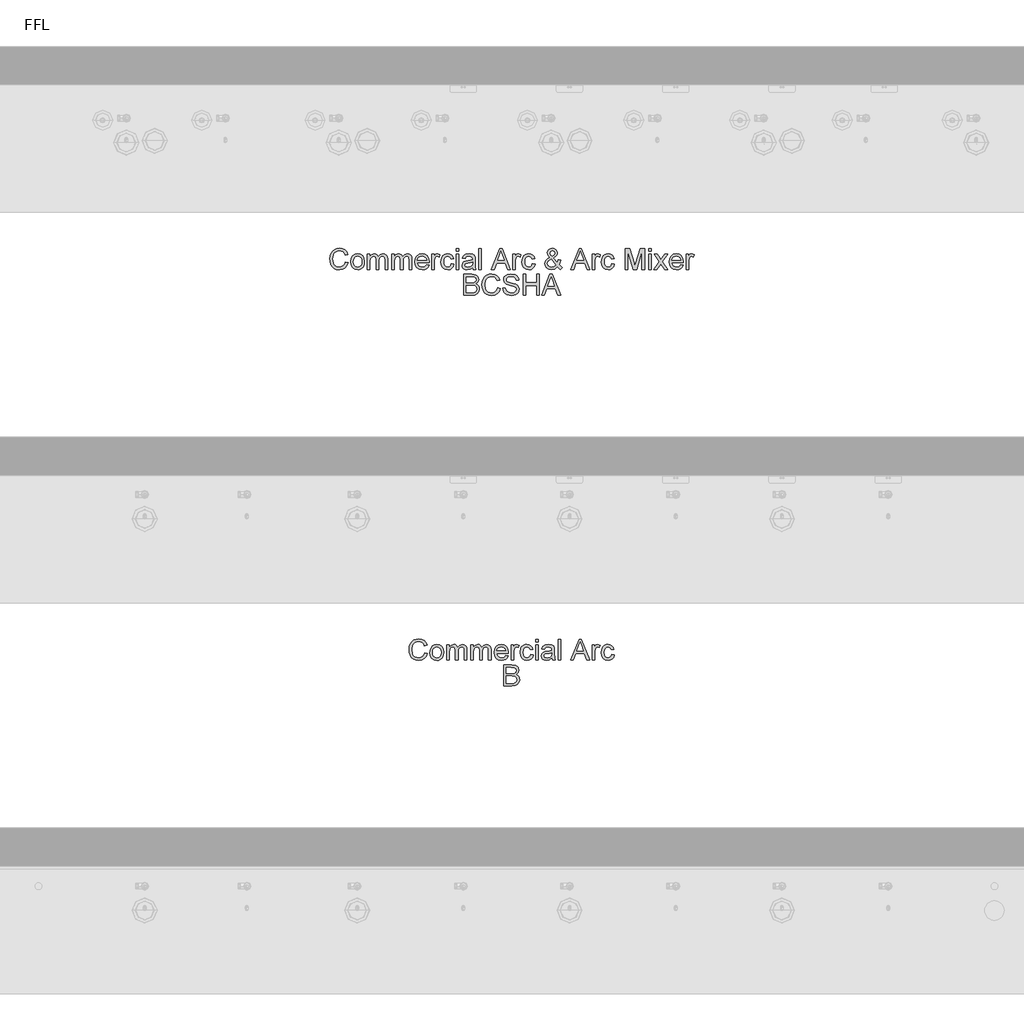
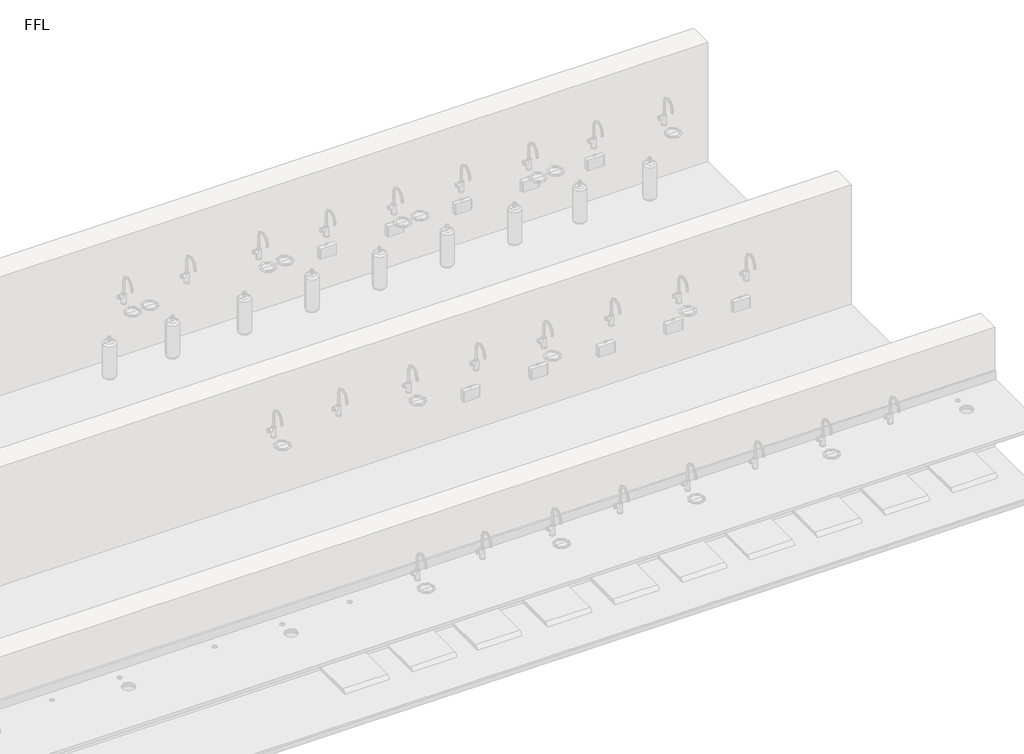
# One storey, part 10 of 10: 2 proxies.
"""IFC4 building model written with IfcOpenShell, lengths in millimetres."""

from ifc_helpers import new_model, si_unit, origin, origin_with_axes, place, context, project, spatial, polyline, outline, extrude, element, save

model = new_model("IFC4")

# Units and contexts
model_context = context("Model", 3, world=origin())
ifc_project = project(units=[si_unit("LENGTHUNIT", "METRE", prefix="MILLI")], contexts=[model_context])

# Site, building, storey
site = spatial("IfcSite", under=ifc_project)
building = spatial("IfcBuilding", under=site)
storey = spatial("IfcBuildingStorey", under=building, Name="FFL", Elevation=0.0)

# Proxies
placement = place(None, origin())
element("IfcBuildingElementProxy", 1, Name="150mm Arial", ObjectType="150mm Arial", at=placement, inside=storey, context=model_context, shape_type="SweptSolid", body=[
    extrude(outline(polyline([(6455.2647071, 6596.3018309), (6473.7262456, 6591.5422155), (6465.2076158, 6570.0292948), (6451.8392264, 6554.3126482), (6434.2791302, 6544.698766), (6413.1853802, 6541.4941386), (6391.7716182, 6543.9190184), (6374.7659091, 6551.1936578), (6361.7310533, 6563.065653), (6352.2298514, 6579.2826001), (6346.4290701, 6598.3481049), (6344.4954764, 6618.7657732), (6346.681474, 6640.3012299), (6353.2394667, 6658.8979847), (6363.8269066, 6673.9655929), (6378.1012456, 6684.9136097), (6395.0303321, 6691.5797756), (6413.5820148, 6693.8018309), (6433.8239018, 6690.9262299), (6450.5591783, 6682.299427), (6463.2650076, 6668.4532732), (6471.4185533, 6649.9196193), (6452.9570148, 6645.5205809), (6446.5567744, 6658.9836217), (6437.8127841, 6668.2188982), (6426.6168706, 6673.5599439), (6412.860861, 6675.3402924), (6397.0044908, 6673.3661338), (6383.9786494, 6667.4436578), (6374.0943345, 6658.1948597), (6367.6625437, 6646.2417347), (6362.9570148, 6618.8018309), (6368.5279283, 6586.9989463), (6375.6493225, 6575.1224439), (6385.8716783, 6566.6804367), (6398.1267865, 6561.6368669), (6411.3464379, 6559.955677), (6426.7565941, 6562.2453405), (6439.5976398, 6569.1143309), (6449.2926518, 6580.4905328), (6455.2647071, 6596.3018309)])), origin_with_axes(), (0.0, 0.0, 1.0), 5.0),
    extrude(outline(polyline([(6492.1877841, 6598.0326001), (6496.1811735, 6624.1834415), (6508.1613417, 6642.5638501), (6522.9630244, 6651.5692588), (6540.6853802, 6654.5710617), (6560.0799115, 6650.9157131), (6575.5711975, 6639.9496674), (6585.7259451, 6622.5383092), (6589.110861, 6599.5470232), (6587.6144667, 6580.8961818), (6583.1252841, 6566.6984655), (6575.774022, 6556.0659535), (6565.6913898, 6548.1107251), (6553.7157288, 6543.1482852), (6540.6853802, 6541.4941386), (6521.056474, 6545.1359655), (6505.5832167, 6556.0614463), (6495.5366422, 6573.8378886), (6492.1877841, 6598.0326001)]), holes=[polyline([(6510.6493225, 6598.0686578), (6512.7857408, 6581.3604246), (6519.1949956, 6569.456879), (6528.8404283, 6562.3309775), (6540.6853802, 6559.955677), (6552.4762456, 6562.3444992), (6562.1036494, 6569.5109655), (6568.5129042, 6581.5722636), (6570.6493225, 6598.6455809), (6568.4993826, 6614.8670352), (6562.0495629, 6626.6083213), (6552.4086374, 6633.7342227), (6540.6853802, 6636.1095232), (6528.8404283, 6633.7432371), (6519.1949956, 6626.644379), (6512.7857408, 6614.7678766), (6510.6493225, 6598.0686578)])]), origin_with_axes(), (0.0, 0.0, 1.0), 5.0),
    extrude(outline(polyline([(6609.8800917, 6543.8018309), (6609.8800917, 6652.2633693), (6628.3416302, 6652.2633693), (6628.3416302, 6634.4148117), (6641.0339379, 6649.0362059), (6659.0988417, 6654.5710617), (6669.3662696, 6653.1603044), (6677.5964379, 6648.9280328), (6687.7647071, 6633.1167347), (6702.1697552, 6649.2074799), (6720.360861, 6654.5710617), (6734.2385653, 6652.3399919), (6744.501486, 6645.6467828), (6750.8431326, 6634.3111458), (6752.9570148, 6618.1527924), (6752.9570148, 6543.8018309), (6734.4954764, 6543.8018309), (6734.4954764, 6610.2201001), (6732.782736, 6625.6347636), (6726.5808129, 6633.2249078), (6716.0339379, 6636.1095232), (6706.0324355, 6634.2615665), (6697.8788898, 6628.7176963), (6692.4567143, 6619.0993068), (6690.6493225, 6605.0277924), (6690.6493225, 6543.8018309), (6672.1877841, 6543.8018309), (6672.1877841, 6612.2753886), (6667.9149475, 6630.160004), (6662.2764259, 6634.6221434), (6653.9065341, 6636.1095232), (6640.2406687, 6632.143177), (6631.1541302, 6620.5326001), (6628.3416302, 6598.5013501), (6628.3416302, 6543.8018309), (6609.8800917, 6543.8018309)])), origin_with_axes(), (0.0, 0.0, 1.0), 5.0),
    extrude(outline(polyline([(6780.6493225, 6543.8018309), (6780.6493225, 6652.2633693), (6799.110861, 6652.2633693), (6799.110861, 6634.4148117), (6811.8031687, 6649.0362059), (6829.8680725, 6654.5710617), (6840.1355004, 6653.1603044), (6848.3656687, 6648.9280328), (6858.5339379, 6633.1167347), (6872.938986, 6649.2074799), (6891.1300917, 6654.5710617), (6905.0077961, 6652.3399919), (6915.2707167, 6645.6467828), (6921.6123634, 6634.3111458), (6923.7262456, 6618.1527924), (6923.7262456, 6543.8018309), (6905.2647071, 6543.8018309), (6905.2647071, 6610.2201001), (6903.5519667, 6625.6347636), (6897.3500437, 6633.2249078), (6886.8031687, 6636.1095232), (6876.8016663, 6634.2615665), (6868.6481206, 6628.7176963), (6863.2259451, 6619.0993068), (6861.4185533, 6605.0277924), (6861.4185533, 6543.8018309), (6842.9570148, 6543.8018309), (6842.9570148, 6612.2753886), (6838.6841783, 6630.160004), (6833.0456566, 6634.6221434), (6824.6757648, 6636.1095232), (6811.0098994, 6632.143177), (6801.923361, 6620.5326001), (6799.110861, 6598.5013501), (6799.110861, 6543.8018309), (6780.6493225, 6543.8018309)])), origin_with_axes(), (0.0, 0.0, 1.0), 5.0),
    extrude(outline(polyline([(7027.3560533, 6576.1095232), (7045.4570148, 6573.8018309), (7038.9350797, 6560.1630088), (7028.5279283, 6549.9676963), (7014.4699355, 6543.612528), (6996.9954764, 6541.4941386), (6975.3338177, 6545.1494871), (6958.6661494, 6556.1155328), (6948.0381446, 6573.6801362), (6944.4954764, 6597.1311578), (6948.0742023, 6621.3709415), (6958.8103802, 6639.4989463), (6975.2526879, 6650.8030328), (6995.9498033, 6654.5710617), (7016.0023874, 6650.8120472), (7032.0255244, 6639.535004), (7042.5318345, 6621.4430568), (7046.0339379, 6597.2393309), (7045.9257648, 6592.2633693), (6962.9570148, 6592.2633693), (6966.1526278, 6578.4442588), (6973.5760052, 6568.285004), (6984.289647, 6562.0380088), (6997.3560533, 6559.955677), (7015.4570148, 6563.8138501), (7027.3560533, 6576.1095232)]), holes=[polyline([(6962.9570148, 6610.7249078), (7027.5723994, 6610.7249078), (7025.0754042, 6620.4785136), (7020.1805725, 6627.455677), (7009.4173514, 6633.9460617), (6995.8776879, 6636.1095232), (6983.4332768, 6634.3832612), (6973.1433129, 6629.2044751), (6965.9903682, 6621.1320592), (6962.9570148, 6610.7249078)])]), origin_with_axes(), (0.0, 0.0, 1.0), 5.0),
    extrude(outline(polyline([(7064.4954764, 6543.8018309), (7064.4954764, 6652.2633693), (7080.6493225, 6652.2633693), (7080.6493225, 6636.2176963), (7092.1156687, 6651.0013501), (7103.6541302, 6654.5710617), (7122.1877841, 6648.8739463), (7116.0219187, 6632.3234655), (7103.0411494, 6636.1095232), (7092.6024475, 6632.4676963), (7085.9498033, 6622.3715424), (7082.9570148, 6600.8090424), (7082.9570148, 6543.8018309), (7064.4954764, 6543.8018309)])), origin_with_axes(), (0.0, 0.0, 1.0), 5.0),
    extrude(outline(polyline([(7202.9570148, 6583.0326001), (7221.4185533, 6580.7249078), (7216.2713177, 6564.3051362), (7206.5988417, 6551.8967828), (7193.3115821, 6544.0947996), (7177.3199956, 6541.4941386), (7157.6820749, 6545.1224439), (7142.3260052, 6556.0073597), (7132.414647, 6573.6711217), (7129.110861, 6597.6359655), (7134.7538898, 6628.3030328), (7141.8752841, 6639.8009294), (7151.9534091, 6648.0085617), (7164.0101999, 6652.9304367), (7177.0675917, 6654.5710617), (7192.6670509, 6652.3174559), (7205.1385052, 6645.5566386), (7214.0853201, 6634.6491867), (7219.110861, 6619.955677), (7200.6493225, 6617.6479847), (7192.0856206, 6631.4761097), (7177.2118225, 6636.1095232), (7165.2812336, 6633.8288742), (7155.8115821, 6626.986927), (7149.6321951, 6615.2140905), (7147.5723994, 6598.1407732), (7149.587123, 6580.8375881), (7155.6312937, 6569.0241867), (7164.9296711, 6562.2228044), (7176.7070148, 6559.955677), (7186.2668105, 6561.3709415), (7194.1048514, 6565.6167347), (7199.806474, 6572.8012299), (7202.9570148, 6583.0326001)])), origin_with_axes(), (0.0, 0.0, 1.0), 5.0),
    extrude(outline(polyline([(7237.5723994, 6673.0326001), (7237.5723994, 6691.4941386), (7256.0339379, 6691.4941386), (7256.0339379, 6673.0326001), (7237.5723994, 6673.0326001)])), origin_with_axes(), (0.0, 0.0, 1.0), 5.0),
    extrude(outline(polyline([(7237.5723994, 6543.8018309), (7237.5723994, 6652.2633693), (7256.0339379, 6652.2633693), (7256.0339379, 6543.8018309), (7237.5723994, 6543.8018309)])), origin_with_axes(), (0.0, 0.0, 1.0), 5.0),
    extrude(outline(polyline([(7352.9570148, 6557.6479847), (7335.0543706, 6545.1359655), (7315.2767264, 6541.4941386), (7299.8485413, 6543.6846434), (7288.4678321, 6550.2561578), (7281.4501038, 6560.2351242), (7279.110861, 6572.6479847), (7282.6445148, 6587.2513501), (7291.9293706, 6597.8523117), (7304.8560533, 6603.910004), (7320.829611, 6606.6864463), (7352.8488417, 6613.0326001), (7352.9570148, 6617.143177), (7351.6859812, 6625.3823597), (7347.8728802, 6630.7729847), (7339.345236, 6634.7753886), (7327.4642264, 6636.1095232), (7308.7863417, 6632.5578405), (7299.8800917, 6619.955677), (7281.4185533, 6622.2633693), (7289.4053321, 6640.2922155), (7305.4870629, 6650.8571193), (7329.8440341, 6654.5710617), (7352.2178321, 6651.2898117), (7364.8560533, 6643.050629), (7370.517111, 6630.5205809), (7371.4185533, 6614.3667347), (7371.4185533, 6591.3979847), (7372.3560533, 6559.3246674), (7376.0339379, 6543.8018309), (7357.5723994, 6543.8018309), (7352.9570148, 6557.6479847)]), holes=[polyline([(7352.9570148, 6594.5710617), (7323.173361, 6588.910004), (7307.2899475, 6585.9172155), (7300.0964379, 6581.049427), (7297.5723994, 6573.9460617), (7303.0711975, 6563.9580809), (7319.2070148, 6559.955677), (7337.8848994, 6564.3727443), (7349.9281687, 6575.0638501), (7352.8488417, 6589.3426963), (7352.9570148, 6594.5710617)])]), origin_with_axes(), (0.0, 0.0, 1.0), 5.0),
    extrude(outline(polyline([(7396.8031687, 6543.8018309), (7396.8031687, 6691.4941386), (7415.2647071, 6691.4941386), (7415.2647071, 6543.8018309), (7396.8031687, 6543.8018309)])), origin_with_axes(), (0.0, 0.0, 1.0), 5.0),
    extrude(outline(polyline([(7485.7574956, 6543.8018309), (7544.7118225, 6691.4941386), (7560.4329764, 6691.4941386), (7619.3873033, 6543.8018309), (7599.8800917, 6543.8018309), (7582.9690341, 6589.955677), (7522.1397071, 6589.955677), (7505.2647071, 6543.8018309), (7485.7574956, 6543.8018309)]), holes=[polyline([(7528.9185533, 6608.4172155), (7576.2262456, 6608.4172155), (7562.9209571, 6644.7273117), (7552.5723994, 6673.0326001), (7543.3776879, 6647.9003886), (7528.9185533, 6608.4172155)])]), origin_with_axes(), (0.0, 0.0, 1.0), 5.0),
    extrude(outline(polyline([(7636.8031687, 6543.8018309), (7636.8031687, 6652.2633693), (7652.9570148, 6652.2633693), (7652.9570148, 6636.2176963), (7664.423361, 6651.0013501), (7675.9618225, 6654.5710617), (7694.4954764, 6648.8739463), (7688.329611, 6632.3234655), (7675.3488417, 6636.1095232), (7664.9101398, 6632.4676963), (7658.2574956, 6622.3715424), (7655.2647071, 6600.8090424), (7655.2647071, 6543.8018309), (7636.8031687, 6543.8018309)])), origin_with_axes(), (0.0, 0.0, 1.0), 5.0),
    extrude(outline(polyline([(7775.2647071, 6583.0326001), (7793.7262456, 6580.7249078), (7788.57901, 6564.3051362), (7778.9065341, 6551.8967828), (7765.6192744, 6544.0947996), (7749.6276879, 6541.4941386), (7729.9897672, 6545.1224439), (7714.6336975, 6556.0073597), (7704.7223393, 6573.6711217), (7701.4185533, 6597.6359655), (7707.0615821, 6628.3030328), (7714.1829764, 6639.8009294), (7724.2611014, 6648.0085617), (7736.3178922, 6652.9304367), (7749.3752841, 6654.5710617), (7764.9747432, 6652.3174559), (7777.4461975, 6645.5566386), (7786.3930124, 6634.6491867), (7791.4185533, 6619.955677), (7772.9570148, 6617.6479847), (7764.3933129, 6631.4761097), (7749.5195148, 6636.1095232), (7737.5889259, 6633.8288742), (7728.1192744, 6626.986927), (7721.9398874, 6615.2140905), (7719.8800917, 6598.1407732), (7721.8948153, 6580.8375881), (7727.938986, 6569.0241867), (7737.2373634, 6562.2228044), (7749.0147071, 6559.955677), (7758.5745028, 6561.3709415), (7766.4125437, 6565.6167347), (7772.1141663, 6572.8012299), (7775.2647071, 6583.0326001)])), origin_with_axes(), (0.0, 0.0, 1.0), 5.0),
    extrude(outline(polyline([(7952.2719187, 6562.0470232), (7932.6925917, 6546.6323597), (7909.7959571, 6541.4941386), (7889.423361, 6545.2982251), (7873.7382648, 6556.7104847), (7865.6523273, 6569.8444992), (7862.9570148, 6584.4388501), (7865.1249836, 6597.3745472), (7871.6288898, 6608.9941386), (7882.4416903, 6619.2886097), (7897.5363417, 6628.2489463), (7884.6457167, 6646.9268309), (7881.4185533, 6660.7729847), (7883.9606206, 6673.2399318), (7891.5868225, 6683.9580809), (7903.0621831, 6691.3408934), (7917.1517264, 6693.8018309), (7930.5561735, 6691.4490665), (7941.2743225, 6684.3907732), (7948.3055725, 6674.0332011), (7950.6493225, 6661.7826001), (7948.9140461, 6651.4971434), (7943.7082167, 6641.986927), (7922.8848994, 6625.2922155), (7949.6036494, 6592.0109655), (7957.5723994, 6612.455677), (7976.0339379, 6608.4532732), (7962.9810533, 6578.0566386), (7985.2647071, 6555.7008693), (7971.4185533, 6541.4941386), (7952.2719187, 6562.0470232)]), holes=[polyline([(7913.5459571, 6636.9388501), (7928.7262456, 6648.3871674), (7932.1877841, 6659.2585617), (7927.626486, 6670.8511097), (7916.2142264, 6675.3402924), (7904.5495629, 6670.8871674), (7899.8800917, 6660.0157732), (7901.4666302, 6653.2549559), (7906.2623033, 6645.736927), (7913.5459571, 6636.9388501)]), polyline([(7939.9041302, 6575.3523117), (7906.9473994, 6616.4941386), (7886.6649475, 6601.0253886), (7881.4185533, 6586.8907732), (7883.2124235, 6578.1828405), (7888.5940341, 6569.1503886), (7897.2659091, 6562.2543549), (7908.9305725, 6559.955677), (7925.8957167, 6564.2465424), (7939.9041302, 6575.3523117)])]), origin_with_axes(), (0.0, 0.0, 1.0), 5.0),
    extrude(outline(polyline([(8046.5267264, 6543.8018309), (8105.4810533, 6691.4941386), (8121.2022071, 6691.4941386), (8180.1565341, 6543.8018309), (8160.6493225, 6543.8018309), (8143.7382648, 6589.955677), (8082.9089379, 6589.955677), (8066.0339379, 6543.8018309), (8046.5267264, 6543.8018309)]), holes=[polyline([(8089.6877841, 6608.4172155), (8136.9954764, 6608.4172155), (8123.6901879, 6644.7273117), (8113.3416302, 6673.0326001), (8104.1469187, 6647.9003886), (8089.6877841, 6608.4172155)])]), origin_with_axes(), (0.0, 0.0, 1.0), 5.0),
    extrude(outline(polyline([(8197.5723994, 6543.8018309), (8197.5723994, 6652.2633693), (8213.7262456, 6652.2633693), (8213.7262456, 6636.2176963), (8225.1925917, 6651.0013501), (8236.7310533, 6654.5710617), (8255.2647071, 6648.8739463), (8249.0988417, 6632.3234655), (8236.1180725, 6636.1095232), (8225.6793706, 6632.4676963), (8219.0267264, 6622.3715424), (8216.0339379, 6600.8090424), (8216.0339379, 6543.8018309), (8197.5723994, 6543.8018309)])), origin_with_axes(), (0.0, 0.0, 1.0), 5.0),
    extrude(outline(polyline([(8336.0339379, 6583.0326001), (8354.4954764, 6580.7249078), (8349.3482408, 6564.3051362), (8339.6757648, 6551.8967828), (8326.3885052, 6544.0947996), (8310.3969187, 6541.4941386), (8290.758998, 6545.1224439), (8275.4029283, 6556.0073597), (8265.4915701, 6573.6711217), (8262.1877841, 6597.6359655), (8267.8308129, 6628.3030328), (8274.9522071, 6639.8009294), (8285.0303321, 6648.0085617), (8297.087123, 6652.9304367), (8310.1445148, 6654.5710617), (8325.743974, 6652.3174559), (8338.2154283, 6645.5566386), (8347.1622432, 6634.6491867), (8352.1877841, 6619.955677), (8333.7262456, 6617.6479847), (8325.1625437, 6631.4761097), (8310.2887456, 6636.1095232), (8298.3581566, 6633.8288742), (8288.8885052, 6626.986927), (8282.7091182, 6615.2140905), (8280.6493225, 6598.1407732), (8282.6640461, 6580.8375881), (8288.7082167, 6569.0241867), (8298.0065941, 6562.2228044), (8309.7839379, 6559.955677), (8319.3437336, 6561.3709415), (8327.1817744, 6565.6167347), (8332.883397, 6572.8012299), (8336.0339379, 6583.0326001)])), origin_with_axes(), (0.0, 0.0, 1.0), 5.0),
    extrude(outline(polyline([(8430.6493225, 6543.8018309), (8430.6493225, 6691.4941386), (8462.4161494, 6691.4941386), (8492.6324956, 6587.3955809), (8498.7262456, 6565.6527924), (8505.3248033, 6589.1984655), (8535.0363417, 6691.4941386), (8566.8031687, 6691.4941386), (8566.8031687, 6543.8018309), (8548.3416302, 6543.8018309), (8548.3416302, 6673.0326001), (8511.2382648, 6543.8018309), (8486.2142264, 6543.8018309), (8449.110861, 6673.0326001), (8449.110861, 6543.8018309), (8430.6493225, 6543.8018309)])), origin_with_axes(), (0.0, 0.0, 1.0), 5.0),
    extrude(outline(polyline([(8596.8031687, 6543.8018309), (8596.8031687, 6652.2633693), (8615.2647071, 6652.2633693), (8615.2647071, 6543.8018309), (8596.8031687, 6543.8018309)])), origin_with_axes(), (0.0, 0.0, 1.0), 5.0),
    extrude(outline(polyline([(8596.8031687, 6673.0326001), (8596.8031687, 6691.4941386), (8615.2647071, 6691.4941386), (8615.2647071, 6673.0326001), (8596.8031687, 6673.0326001)])), origin_with_axes(), (0.0, 0.0, 1.0), 5.0),
    extrude(outline(polyline([(8631.4185533, 6543.8018309), (8670.8656687, 6598.3210617), (8633.7262456, 6652.2633693), (8655.9377841, 6652.2633693), (8673.8584571, 6626.3018309), (8682.2238417, 6614.0422155), (8689.4714379, 6624.066254), (8709.8800917, 6652.2633693), (8732.0916302, 6652.2633693), (8693.0772071, 6598.3210617), (8730.6493225, 6543.8018309), (8708.4377841, 6543.8018309), (8685.829611, 6576.5782732), (8681.6829764, 6582.5638501), (8653.6300917, 6543.8018309), (8631.4185533, 6543.8018309)])), origin_with_axes(), (0.0, 0.0, 1.0), 5.0),
    extrude(outline(polyline([(8822.7406687, 6576.1095232), (8840.8416302, 6573.8018309), (8834.3196951, 6560.1630088), (8823.9125437, 6549.9676963), (8809.8545509, 6543.612528), (8792.3800917, 6541.4941386), (8770.7184331, 6545.1494871), (8754.0507648, 6556.1155328), (8743.42276, 6573.6801362), (8739.8800917, 6597.1311578), (8743.4588177, 6621.3709415), (8754.1949956, 6639.4989463), (8770.6373033, 6650.8030328), (8791.3344187, 6654.5710617), (8811.3870028, 6650.8120472), (8827.4101398, 6639.535004), (8837.9164499, 6621.4430568), (8841.4185533, 6597.2393309), (8841.3103802, 6592.2633693), (8758.3416302, 6592.2633693), (8761.5372432, 6578.4442588), (8768.9606206, 6568.285004), (8779.6742624, 6562.0380088), (8792.7406687, 6559.955677), (8810.8416302, 6563.8138501), (8822.7406687, 6576.1095232)]), holes=[polyline([(8758.3416302, 6610.7249078), (8822.9570148, 6610.7249078), (8820.4600196, 6620.4785136), (8815.5651879, 6627.455677), (8804.8019667, 6633.9460617), (8791.2623033, 6636.1095232), (8778.8178922, 6634.3832612), (8768.5279283, 6629.2044751), (8761.3749836, 6621.1320592), (8758.3416302, 6610.7249078)])]), origin_with_axes(), (0.0, 0.0, 1.0), 5.0),
    extrude(outline(polyline([(8859.8800917, 6543.8018309), (8859.8800917, 6652.2633693), (8876.0339379, 6652.2633693), (8876.0339379, 6636.2176963), (8887.5002841, 6651.0013501), (8899.0387456, 6654.5710617), (8917.5723994, 6648.8739463), (8911.4065341, 6632.3234655), (8898.4257648, 6636.1095232), (8887.9870629, 6632.4676963), (8881.3344187, 6622.3715424), (8878.3416302, 6600.8090424), (8878.3416302, 6543.8018309), (8859.8800917, 6543.8018309)])), origin_with_axes(), (0.0, 0.0, 1.0), 5.0),
    extrude(outline(polyline([(7289.4954764, 6361.4941386), (7289.4954764, 6509.1864463), (7345.8536494, 6509.1864463), (7373.4558129, 6504.8414943), (7382.7316542, 6499.3291746), (7389.7538898, 6491.4821193), (7395.6493225, 6472.5878886), (7390.6913898, 6455.3342828), (7375.7094187, 6442.2633693), (7386.1706566, 6436.800629), (7393.9005244, 6428.4893309), (7398.6736615, 6417.8793549), (7400.2647071, 6405.5205809), (7395.9197552, 6385.6708213), (7385.1565341, 6371.5362059), (7369.0928321, 6364.0362059), (7345.4209571, 6361.4941386), (7289.4954764, 6361.4941386)]), holes=[polyline([(7307.9570148, 6379.955677), (7345.8175917, 6379.955677), (7359.5195148, 6380.6768309), (7371.1120629, 6384.6972636), (7378.7923514, 6392.9003886), (7381.8031687, 6405.3402924), (7378.2695148, 6419.691254), (7366.8211975, 6428.2549559), (7344.0147071, 6430.7249078), (7307.9570148, 6430.7249078), (7307.9570148, 6379.955677)]), polyline([(7307.9570148, 6449.1864463), (7341.6709571, 6449.1864463), (7361.3584571, 6450.7729847), (7373.2034091, 6457.6059174), (7377.1877841, 6469.6311578), (7373.4738417, 6481.674427), (7362.8368225, 6488.7958213), (7339.110861, 6490.7249078), (7307.9570148, 6490.7249078), (7307.9570148, 6449.1864463)])]), origin_with_axes(), (0.0, 0.0, 1.0), 5.0),
    extrude(outline(polyline([(7529.4954764, 6413.9941386), (7547.9570148, 6409.2345232), (7539.438385, 6387.7216025), (7526.0699956, 6372.0049559), (7508.5098994, 6362.3910737), (7487.4161494, 6359.1864463), (7466.0023874, 6361.6113261), (7448.9966783, 6368.8859655), (7435.9618225, 6380.7579607), (7426.4606206, 6396.9749078), (7420.6598393, 6416.0404126), (7418.7262456, 6436.4580809), (7420.9122432, 6457.9935376), (7427.470236, 6476.5902924), (7438.0576759, 6491.6579006), (7452.3320148, 6502.6059174), (7469.2611014, 6509.2720833), (7487.8127841, 6511.4941386), (7508.0546711, 6508.6185376), (7524.7899475, 6499.9917347), (7537.4957768, 6486.1455809), (7545.6493225, 6467.611927), (7527.1877841, 6463.2128886), (7520.7875437, 6476.6759294), (7512.0435533, 6485.9112059), (7500.8476398, 6491.2522516), (7487.0916302, 6493.0326001), (7471.23526, 6491.0584415), (7458.2094187, 6485.1359655), (7448.3251038, 6475.8871674), (7441.8933129, 6463.9340424), (7437.1877841, 6436.4941386), (7442.7586975, 6404.691254), (7449.8800917, 6392.8147516), (7460.1024475, 6384.3727443), (7472.3575557, 6379.3291746), (7485.5772071, 6377.6479847), (7500.9873634, 6379.9376482), (7513.8284091, 6386.8066386), (7523.5234211, 6398.1828405), (7529.4954764, 6413.9941386)])), origin_with_axes(), (0.0, 0.0, 1.0), 5.0),
    extrude(outline(polyline([(7566.4185533, 6412.2633693), (7584.8800917, 6412.2633693), (7590.829611, 6393.783802), (7605.360861, 6382.1011097), (7627.5002841, 6377.6479847), (7646.7911494, 6381.019379), (7659.2490821, 6390.2862059), (7663.3416302, 6402.6720232), (7660.2767264, 6414.1924559), (7647.7286494, 6422.5758693), (7620.8476398, 6429.6251482), (7591.9113417, 6438.7297155), (7576.2082167, 6452.4676963), (7571.0339379, 6470.8210617), (7572.633998, 6481.6338621), (7577.4341783, 6491.7164943), (7585.3082768, 6500.2621674), (7596.1300917, 6506.4640905), (7623.4978802, 6511.4941386), (7652.704611, 6506.2297155), (7663.9005244, 6499.7303165), (7672.1757648, 6490.7609655), (7677.4131446, 6479.8805568), (7679.4954764, 6467.6479847), (7661.0339379, 6467.6479847), (7657.6445148, 6478.6636097), (7650.5772071, 6486.6143309), (7639.5345389, 6491.4280328), (7624.2190341, 6493.0326001), (7608.5429523, 6491.4460617), (7597.7887456, 6486.6864463), (7591.5687937, 6479.6822395), (7589.4954764, 6471.361927), (7590.9648273, 6464.2675761), (7595.3728802, 6458.5614463), (7625.517111, 6448.2489463), (7658.1853802, 6438.9821193), (7668.7097191, 6432.284403), (7676.0519667, 6424.018177), (7681.8031687, 6403.1407732), (7680.149022, 6391.7600641), (7675.1865821, 6381.0554367), (7667.1186735, 6371.8426963), (7656.1481206, 6364.9376482), (7628.2214379, 6359.1864463), (7610.133998, 6360.736927), (7595.2466783, 6365.3883693), (7583.3882047, 6373.158802), (7574.3873033, 6384.066254), (7568.6090581, 6397.3535136), (7566.4185533, 6412.2633693)])), origin_with_axes(), (0.0, 0.0, 1.0), 5.0),
    extrude(outline(polyline([(7709.4954764, 6361.4941386), (7709.4954764, 6509.1864463), (7727.9570148, 6509.1864463), (7727.9570148, 6449.1864463), (7806.4185533, 6449.1864463), (7806.4185533, 6509.1864463), (7824.8800917, 6509.1864463), (7824.8800917, 6361.4941386), (7806.4185533, 6361.4941386), (7806.4185533, 6430.7249078), (7727.9570148, 6430.7249078), (7727.9570148, 6361.4941386), (7709.4954764, 6361.4941386)])), origin_with_axes(), (0.0, 0.0, 1.0), 5.0),
    extrude(outline(polyline([(7839.9882648, 6361.4941386), (7898.9425917, 6509.1864463), (7914.6637456, 6509.1864463), (7973.6180725, 6361.4941386), (7954.110861, 6361.4941386), (7937.1998033, 6407.6479847), (7876.3704764, 6407.6479847), (7859.4954764, 6361.4941386), (7839.9882648, 6361.4941386)]), holes=[polyline([(7883.1493225, 6426.1095232), (7930.4570148, 6426.1095232), (7917.1517264, 6462.4196193), (7906.8031687, 6490.7249078), (7897.6084571, 6465.5926963), (7883.1493225, 6426.1095232)])]), origin_with_axes(), (0.0, 0.0, 1.0), 5.0),
])
element("IfcBuildingElementProxy", 2, Name="150mm Arial", ObjectType="150mm Arial", at=placement, inside=storey, context=model_context, shape_type="SweptSolid", body=[
    extrude(outline(polyline([(7014.8800917, 3836.3018309), (7033.3416302, 3831.5422155), (7024.8230004, 3810.0292948), (7011.454611, 3794.3126482), (6993.8945148, 3784.698766), (6972.8007648, 3781.4941386), (6951.3870028, 3783.9190184), (6934.3812937, 3791.1936578), (6921.3464379, 3803.065653), (6911.845236, 3819.2826001), (6906.0444547, 3838.3481049), (6904.110861, 3858.7657732), (6906.2968586, 3880.3012299), (6912.8548514, 3898.8979847), (6923.4422913, 3913.9655929), (6937.7166302, 3924.9136097), (6954.6457167, 3931.5797756), (6973.1973994, 3933.8018309), (6993.4392865, 3930.9262299), (7010.1745629, 3922.299427), (7022.8803922, 3908.4532732), (7031.0339379, 3889.9196193), (7012.5723994, 3885.5205809), (7006.1721591, 3898.9836217), (6997.4281687, 3908.2188982), (6986.2322552, 3913.5599439), (6972.4762456, 3915.3402924), (6956.6198754, 3913.3661338), (6943.5940341, 3907.4436578), (6933.7097191, 3898.1948597), (6927.2779283, 3886.2417347), (6922.5723994, 3858.8018309), (6928.1433129, 3826.9989463), (6935.2647071, 3815.1224439), (6945.4870629, 3806.6804367), (6957.7421711, 3801.6368669), (6970.9618225, 3799.955677), (6986.3719788, 3802.2453405), (6999.2130244, 3809.1143309), (7008.9080365, 3820.4905328), (7014.8800917, 3836.3018309)])), origin_with_axes(), (0.0, 0.0, 1.0), 5.0),
    extrude(outline(polyline([(7051.8031687, 3838.0326001), (7055.7965581, 3864.1834415), (7067.7767264, 3882.5638501), (7082.5784091, 3891.5692588), (7100.3007648, 3894.5710617), (7119.6952961, 3890.9157131), (7135.1865821, 3879.9496674), (7145.3413297, 3862.5383092), (7148.7262456, 3839.5470232), (7147.2298514, 3820.8961818), (7142.7406687, 3806.6984655), (7135.3894066, 3796.0659535), (7125.3067744, 3788.1107251), (7113.3311134, 3783.1482852), (7100.3007648, 3781.4941386), (7080.6718586, 3785.1359655), (7065.1986014, 3796.0614463), (7055.1520268, 3813.8378886), (7051.8031687, 3838.0326001)]), holes=[polyline([(7070.2647071, 3838.0686578), (7072.4011254, 3821.3604246), (7078.8103802, 3809.456879), (7088.4558129, 3802.3309775), (7100.3007648, 3799.955677), (7112.0916302, 3802.3444992), (7121.7190341, 3809.5109655), (7128.1282889, 3821.5722636), (7130.2647071, 3838.6455809), (7128.1147672, 3854.8670352), (7121.6649475, 3866.6083213), (7112.024022, 3873.7342227), (7100.3007648, 3876.1095232), (7088.4558129, 3873.7432371), (7078.8103802, 3866.644379), (7072.4011254, 3854.7678766), (7070.2647071, 3838.0686578)])]), origin_with_axes(), (0.0, 0.0, 1.0), 5.0),
    extrude(outline(polyline([(7169.4954764, 3783.8018309), (7169.4954764, 3892.2633693), (7187.9570148, 3892.2633693), (7187.9570148, 3874.4148117), (7200.6493225, 3889.0362059), (7218.7142264, 3894.5710617), (7228.9816542, 3893.1603044), (7237.2118225, 3888.9280328), (7247.3800917, 3873.1167347), (7261.7851398, 3889.2074799), (7279.9762456, 3894.5710617), (7293.8539499, 3892.3399919), (7304.1168706, 3885.6467828), (7310.4585172, 3874.3111458), (7312.5723994, 3858.1527924), (7312.5723994, 3783.8018309), (7294.110861, 3783.8018309), (7294.110861, 3850.2201001), (7292.3981206, 3865.6347636), (7286.1961975, 3873.2249078), (7275.6493225, 3876.1095232), (7265.6478201, 3874.2615665), (7257.4942744, 3868.7176963), (7252.072099, 3859.0993068), (7250.2647071, 3845.0277924), (7250.2647071, 3783.8018309), (7231.8031687, 3783.8018309), (7231.8031687, 3852.2753886), (7227.5303321, 3870.160004), (7221.8918105, 3874.6221434), (7213.5219187, 3876.1095232), (7199.8560533, 3872.143177), (7190.7695148, 3860.5326001), (7187.9570148, 3838.5013501), (7187.9570148, 3783.8018309), (7169.4954764, 3783.8018309)])), origin_with_axes(), (0.0, 0.0, 1.0), 5.0),
    extrude(outline(polyline([(7340.2647071, 3783.8018309), (7340.2647071, 3892.2633693), (7358.7262456, 3892.2633693), (7358.7262456, 3874.4148117), (7371.4185533, 3889.0362059), (7389.4834571, 3894.5710617), (7399.750885, 3893.1603044), (7407.9810533, 3888.9280328), (7418.1493225, 3873.1167347), (7432.5543706, 3889.2074799), (7450.7454764, 3894.5710617), (7464.6231807, 3892.3399919), (7474.8861014, 3885.6467828), (7481.227748, 3874.3111458), (7483.3416302, 3858.1527924), (7483.3416302, 3783.8018309), (7464.8800917, 3783.8018309), (7464.8800917, 3850.2201001), (7463.1673514, 3865.6347636), (7456.9654283, 3873.2249078), (7446.4185533, 3876.1095232), (7436.4170509, 3874.2615665), (7428.2635052, 3868.7176963), (7422.8413297, 3859.0993068), (7421.0339379, 3845.0277924), (7421.0339379, 3783.8018309), (7402.5723994, 3783.8018309), (7402.5723994, 3852.2753886), (7398.2995629, 3870.160004), (7392.6610413, 3874.6221434), (7384.2911494, 3876.1095232), (7370.6252841, 3872.143177), (7361.5387456, 3860.5326001), (7358.7262456, 3838.5013501), (7358.7262456, 3783.8018309), (7340.2647071, 3783.8018309)])), origin_with_axes(), (0.0, 0.0, 1.0), 5.0),
    extrude(outline(polyline([(7586.9714379, 3816.1095232), (7605.0723994, 3813.8018309), (7598.5504643, 3800.1630088), (7588.1433129, 3789.9676963), (7574.0853201, 3783.612528), (7556.610861, 3781.4941386), (7534.9492023, 3785.1494871), (7518.2815341, 3796.1155328), (7507.6535292, 3813.6801362), (7504.110861, 3837.1311578), (7507.6895869, 3861.3709415), (7518.4257648, 3879.4989463), (7534.8680725, 3890.8030328), (7555.5651879, 3894.5710617), (7575.617772, 3890.8120472), (7591.6409091, 3879.535004), (7602.1472191, 3861.4430568), (7605.6493225, 3837.2393309), (7605.5411494, 3832.2633693), (7522.5723994, 3832.2633693), (7525.7680124, 3818.4442588), (7533.1913898, 3808.285004), (7543.9050316, 3802.0380088), (7556.9714379, 3799.955677), (7575.0723994, 3803.8138501), (7586.9714379, 3816.1095232)]), holes=[polyline([(7522.5723994, 3850.7249078), (7587.1877841, 3850.7249078), (7584.6907889, 3860.4785136), (7579.7959571, 3867.455677), (7569.032736, 3873.9460617), (7555.4930725, 3876.1095232), (7543.0486615, 3874.3832612), (7532.7586975, 3869.2044751), (7525.6057528, 3861.1320592), (7522.5723994, 3850.7249078)])]), origin_with_axes(), (0.0, 0.0, 1.0), 5.0),
    extrude(outline(polyline([(7624.110861, 3783.8018309), (7624.110861, 3892.2633693), (7640.2647071, 3892.2633693), (7640.2647071, 3876.2176963), (7651.7310533, 3891.0013501), (7663.2695148, 3894.5710617), (7681.8031687, 3888.8739463), (7675.6373033, 3872.3234655), (7662.6565341, 3876.1095232), (7652.2178321, 3872.4676963), (7645.5651879, 3862.3715424), (7642.5723994, 3840.8090424), (7642.5723994, 3783.8018309), (7624.110861, 3783.8018309)])), origin_with_axes(), (0.0, 0.0, 1.0), 5.0),
    extrude(outline(polyline([(7762.5723994, 3823.0326001), (7781.0339379, 3820.7249078), (7775.8867023, 3804.3051362), (7766.2142264, 3791.8967828), (7752.9269667, 3784.0947996), (7736.9353802, 3781.4941386), (7717.2974595, 3785.1224439), (7701.9413898, 3796.0073597), (7692.0300316, 3813.6711217), (7688.7262456, 3837.6359655), (7694.3692744, 3868.3030328), (7701.4906687, 3879.8009294), (7711.5687937, 3888.0085617), (7723.6255845, 3892.9304367), (7736.6829764, 3894.5710617), (7752.2824355, 3892.3174559), (7764.7538898, 3885.5566386), (7773.7007047, 3874.6491867), (7778.7262456, 3859.955677), (7760.2647071, 3857.6479847), (7751.7010052, 3871.4761097), (7736.8272071, 3876.1095232), (7724.8966182, 3873.8288742), (7715.4269667, 3866.986927), (7709.2475797, 3855.2140905), (7707.1877841, 3838.1407732), (7709.2025076, 3820.8375881), (7715.2466783, 3809.0241867), (7724.5450557, 3802.2228044), (7736.3223994, 3799.955677), (7745.8821951, 3801.3709415), (7753.720236, 3805.6167347), (7759.4218586, 3812.8012299), (7762.5723994, 3823.0326001)])), origin_with_axes(), (0.0, 0.0, 1.0), 5.0),
    extrude(outline(polyline([(7797.1877841, 3913.0326001), (7797.1877841, 3931.4941386), (7815.6493225, 3931.4941386), (7815.6493225, 3913.0326001), (7797.1877841, 3913.0326001)])), origin_with_axes(), (0.0, 0.0, 1.0), 5.0),
    extrude(outline(polyline([(7797.1877841, 3783.8018309), (7797.1877841, 3892.2633693), (7815.6493225, 3892.2633693), (7815.6493225, 3783.8018309), (7797.1877841, 3783.8018309)])), origin_with_axes(), (0.0, 0.0, 1.0), 5.0),
    extrude(outline(polyline([(7912.5723994, 3797.6479847), (7894.6697552, 3785.1359655), (7874.892111, 3781.4941386), (7859.4639259, 3783.6846434), (7848.0832167, 3790.2561578), (7841.0654884, 3800.2351242), (7838.7262456, 3812.6479847), (7842.2598994, 3827.2513501), (7851.5447552, 3837.8523117), (7864.4714379, 3843.910004), (7880.4449956, 3846.6864463), (7912.4642264, 3853.0326001), (7912.5723994, 3857.143177), (7911.3013658, 3865.3823597), (7907.4882648, 3870.7729847), (7898.9606206, 3874.7753886), (7887.079611, 3876.1095232), (7868.4017264, 3872.5578405), (7859.4954764, 3859.955677), (7841.0339379, 3862.2633693), (7849.0207167, 3880.2922155), (7865.1024475, 3890.8571193), (7889.4594187, 3894.5710617), (7911.8332167, 3891.2898117), (7924.4714379, 3883.050629), (7930.1324956, 3870.5205809), (7931.0339379, 3854.3667347), (7931.0339379, 3831.3979847), (7931.9714379, 3799.3246674), (7935.6493225, 3783.8018309), (7917.1877841, 3783.8018309), (7912.5723994, 3797.6479847)]), holes=[polyline([(7912.5723994, 3834.5710617), (7882.7887456, 3828.910004), (7866.9053321, 3825.9172155), (7859.7118225, 3821.049427), (7857.1877841, 3813.9460617), (7862.6865821, 3803.9580809), (7878.8223994, 3799.955677), (7897.5002841, 3804.3727443), (7909.5435533, 3815.0638501), (7912.4642264, 3829.3426963), (7912.5723994, 3834.5710617)])]), origin_with_axes(), (0.0, 0.0, 1.0), 5.0),
    extrude(outline(polyline([(7956.4185533, 3783.8018309), (7956.4185533, 3931.4941386), (7974.8800917, 3931.4941386), (7974.8800917, 3783.8018309), (7956.4185533, 3783.8018309)])), origin_with_axes(), (0.0, 0.0, 1.0), 5.0),
    extrude(outline(polyline([(8045.3728802, 3783.8018309), (8104.3272071, 3931.4941386), (8120.048361, 3931.4941386), (8179.0026879, 3783.8018309), (8159.4954764, 3783.8018309), (8142.5844187, 3829.955677), (8081.7550917, 3829.955677), (8064.8800917, 3783.8018309), (8045.3728802, 3783.8018309)]), holes=[polyline([(8088.5339379, 3848.4172155), (8135.8416302, 3848.4172155), (8122.5363417, 3884.7273117), (8112.1877841, 3913.0326001), (8102.9930725, 3887.9003886), (8088.5339379, 3848.4172155)])]), origin_with_axes(), (0.0, 0.0, 1.0), 5.0),
    extrude(outline(polyline([(8196.4185533, 3783.8018309), (8196.4185533, 3892.2633693), (8212.5723994, 3892.2633693), (8212.5723994, 3876.2176963), (8224.0387456, 3891.0013501), (8235.5772071, 3894.5710617), (8254.110861, 3888.8739463), (8247.9449956, 3872.3234655), (8234.9642264, 3876.1095232), (8224.5255244, 3872.4676963), (8217.8728802, 3862.3715424), (8214.8800917, 3840.8090424), (8214.8800917, 3783.8018309), (8196.4185533, 3783.8018309)])), origin_with_axes(), (0.0, 0.0, 1.0), 5.0),
    extrude(outline(polyline([(8334.8800917, 3823.0326001), (8353.3416302, 3820.7249078), (8348.1943946, 3804.3051362), (8338.5219187, 3791.8967828), (8325.2346591, 3784.0947996), (8309.2430725, 3781.4941386), (8289.6051518, 3785.1224439), (8274.2490821, 3796.0073597), (8264.337724, 3813.6711217), (8261.0339379, 3837.6359655), (8266.6769667, 3868.3030328), (8273.798361, 3879.8009294), (8283.876486, 3888.0085617), (8295.9332768, 3892.9304367), (8308.9906687, 3894.5710617), (8324.5901278, 3892.3174559), (8337.0615821, 3885.5566386), (8346.008397, 3874.6491867), (8351.0339379, 3859.955677), (8332.5723994, 3857.6479847), (8324.0086975, 3871.4761097), (8309.1348994, 3876.1095232), (8297.2043105, 3873.8288742), (8287.7346591, 3866.986927), (8281.555272, 3855.2140905), (8279.4954764, 3838.1407732), (8281.5101999, 3820.8375881), (8287.5543706, 3809.0241867), (8296.852748, 3802.2228044), (8308.6300917, 3799.955677), (8318.1898874, 3801.3709415), (8326.0279283, 3805.6167347), (8331.7295509, 3812.8012299), (8334.8800917, 3823.0326001)])), origin_with_axes(), (0.0, 0.0, 1.0), 5.0),
    extrude(outline(polyline([(7573.3416302, 3601.4941386), (7573.3416302, 3749.1864463), (7629.6998033, 3749.1864463), (7657.3019667, 3744.8414943), (7666.5778081, 3739.3291746), (7673.6000437, 3731.4821193), (7679.4954764, 3712.5878886), (7674.5375437, 3695.3342828), (7659.5555725, 3682.2633693), (7670.0168105, 3676.800629), (7677.7466783, 3668.4893309), (7682.5198153, 3657.8793549), (7684.110861, 3645.5205809), (7679.7659091, 3625.6708213), (7669.0026879, 3611.5362059), (7652.938986, 3604.0362059), (7629.267111, 3601.4941386), (7573.3416302, 3601.4941386)]), holes=[polyline([(7591.8031687, 3619.955677), (7629.6637456, 3619.955677), (7643.3656687, 3620.6768309), (7654.9582167, 3624.6972636), (7662.6385052, 3632.9003886), (7665.6493225, 3645.3402924), (7662.1156687, 3659.691254), (7650.6673514, 3668.2549559), (7627.860861, 3670.7249078), (7591.8031687, 3670.7249078), (7591.8031687, 3619.955677)]), polyline([(7591.8031687, 3689.1864463), (7625.517111, 3689.1864463), (7645.204611, 3690.7729847), (7657.0495629, 3697.6059174), (7661.0339379, 3709.6311578), (7657.3199956, 3721.674427), (7646.6829764, 3728.7958213), (7622.9570148, 3730.7249078), (7591.8031687, 3730.7249078), (7591.8031687, 3689.1864463)])]), origin_with_axes(), (0.0, 0.0, 1.0), 5.0),
])

save(model, "model.ifc")
